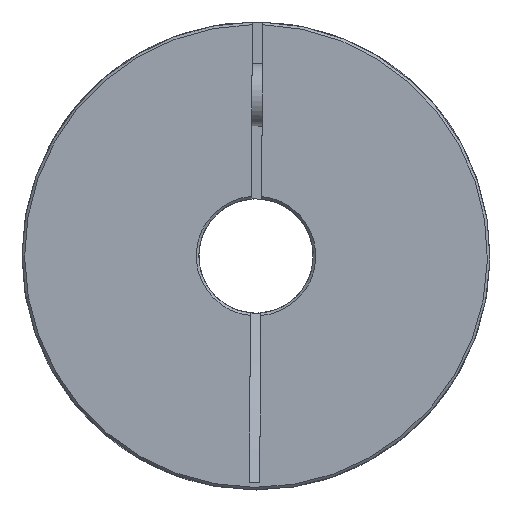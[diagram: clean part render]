
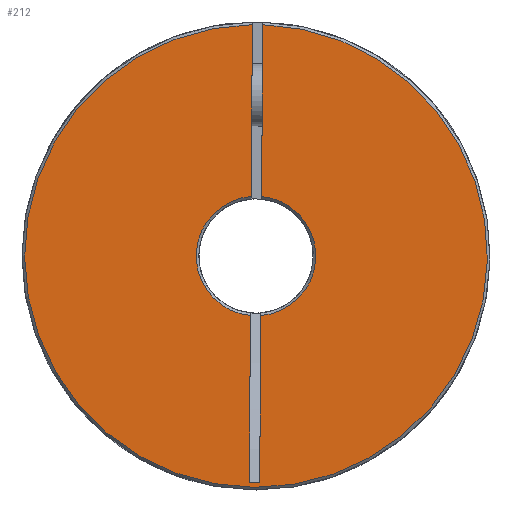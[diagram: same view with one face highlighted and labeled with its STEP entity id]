
A CAD part, left-side view. The second image highlights one B-rep face of the part: STEP entity #212.
In plain terms, the highlighted planar face has unit normal (-1, 0, 0).
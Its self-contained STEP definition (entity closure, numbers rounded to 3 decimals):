
#212 = ADVANCED_FACE( 'NONE', ( #447 ), #448, .F. );
#447 = FACE_OUTER_BOUND( '', #772, .T. );
#448 = PLANE( '', #773 );
#772 = EDGE_LOOP( '', ( #1122, #1123, #1124, #1125, #1126, #1127, #1128, #1129 ) );
#773 = AXIS2_PLACEMENT_3D( '', #1130, #1131, #1132 );
#1122 = ORIENTED_EDGE( '', *, *, #1656, .T. );
#1123 = ORIENTED_EDGE( '', *, *, #1657, .T. );
#1124 = ORIENTED_EDGE( '', *, *, #1658, .T. );
#1125 = ORIENTED_EDGE( '', *, *, #1659, .T. );
#1126 = ORIENTED_EDGE( '', *, *, #1660, .F. );
#1127 = ORIENTED_EDGE( '', *, *, #1661, .T. );
#1128 = ORIENTED_EDGE( '', *, *, #1662, .F. );
#1129 = ORIENTED_EDGE( '', *, *, #1663, .T. );
#1130 = CARTESIAN_POINT( '', ( 0., 11., 0. ) );
#1131 = DIRECTION( '', ( 1., 0., 0. ) );
#1132 = DIRECTION( '', ( 0., 1., 0. ) );
#1656 = EDGE_CURVE( 'NONE', #1898, #1899, #1900, .T. );
#1657 = EDGE_CURVE( 'NONE', #1899, #1901, #1902, .T. );
#1658 = EDGE_CURVE( 'NONE', #1901, #1903, #1904, .T. );
#1659 = EDGE_CURVE( 'NONE', #1903, #1905, #1906, .F. );
#1660 = EDGE_CURVE( 'NONE', #1907, #1905, #1908, .F. );
#1661 = EDGE_CURVE( 'NONE', #1907, #1909, #1910, .T. );
#1662 = EDGE_CURVE( 'NONE', #1911, #1909, #1912, .F. );
#1663 = EDGE_CURVE( 'NONE', #1911, #1898, #1913, .T. );
#1898 = VERTEX_POINT( 'NONE', #2206 );
#1899 = VERTEX_POINT( 'NONE', #2207 );
#1900 = LINE( '', #2208, #2209 );
#1901 = VERTEX_POINT( 'NONE', #2210 );
#1902 = CIRCLE( '', #2211, 11.5 );
#1903 = VERTEX_POINT( 'NONE', #2212 );
#1904 = LINE( '', #2213, #2214 );
#1905 = VERTEX_POINT( 'NONE', #2215 );
#1906 = CIRCLE( '', #2216, 44.5 );
#1907 = VERTEX_POINT( 'NONE', #2217 );
#1908 = LINE( '', #2218, #2219 );
#1909 = VERTEX_POINT( 'NONE', #2220 );
#1910 = CIRCLE( '', #2221, 11.5 );
#1911 = VERTEX_POINT( 'NONE', #2222 );
#1912 = LINE( '', #2223, #2224 );
#1913 = LINE( '', #2225, #2226 );
#2206 = CARTESIAN_POINT( '', ( 0., 43.508, 1. ) );
#2207 = CARTESIAN_POINT( '', ( 0., 11.456, 1. ) );
#2208 = CARTESIAN_POINT( '', ( 0., 11., 1. ) );
#2209 = VECTOR( '', #2742, 1000. );
#2210 = CARTESIAN_POINT( '', ( 0., -11.456, 1. ) );
#2211 = AXIS2_PLACEMENT_3D( '', #2743, #2744, #2745 );
#2212 = CARTESIAN_POINT( '', ( 0., -44.489, 1. ) );
#2213 = CARTESIAN_POINT( '', ( 0., 11., 1. ) );
#2214 = VECTOR( '', #2746, 1000. );
#2215 = CARTESIAN_POINT( '', ( 0., -44.489, -1. ) );
#2216 = AXIS2_PLACEMENT_3D( '', #2747, #2748, #2749 );
#2217 = CARTESIAN_POINT( '', ( 0., -11.456, -1. ) );
#2218 = CARTESIAN_POINT( '', ( 0., -9., -1. ) );
#2219 = VECTOR( '', #2750, 1000. );
#2220 = CARTESIAN_POINT( '', ( 0., 11.456, -1. ) );
#2221 = AXIS2_PLACEMENT_3D( '', #2751, #2752, #2753 );
#2222 = CARTESIAN_POINT( '', ( 0., 43.508, -1. ) );
#2223 = CARTESIAN_POINT( '', ( 0., -9., -1. ) );
#2224 = VECTOR( '', #2754, 1000. );
#2225 = CARTESIAN_POINT( '', ( 0., 43.508, -1. ) );
#2226 = VECTOR( '', #2755, 1000. );
#2742 = DIRECTION( '', ( 0., -1., 0. ) );
#2743 = CARTESIAN_POINT( '', ( 0., 0., 0. ) );
#2744 = DIRECTION( '', ( 1., 0., 0. ) );
#2745 = DIRECTION( '', ( 0., 0., -1. ) );
#2746 = DIRECTION( '', ( 0., -1., 0. ) );
#2747 = CARTESIAN_POINT( '', ( 0., 0., 0. ) );
#2748 = DIRECTION( '', ( 1., 0., 0. ) );
#2749 = DIRECTION( '', ( 0., 0., -1. ) );
#2750 = DIRECTION( '', ( 0., 1., 0. ) );
#2751 = CARTESIAN_POINT( '', ( 0., 0., 0. ) );
#2752 = DIRECTION( '', ( 1., 0., 0. ) );
#2753 = DIRECTION( '', ( 0., 0., -1. ) );
#2754 = DIRECTION( '', ( 0., 1., 0. ) );
#2755 = DIRECTION( '', ( 0., 0., 1. ) );
